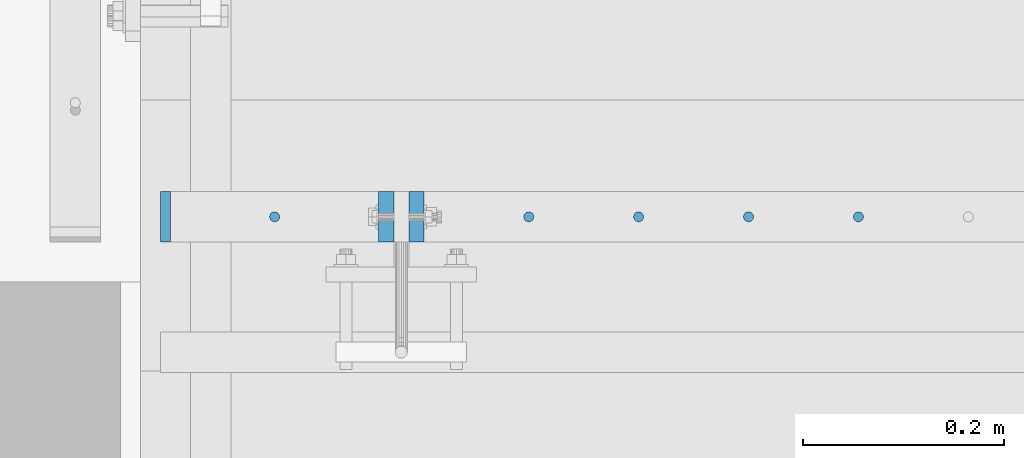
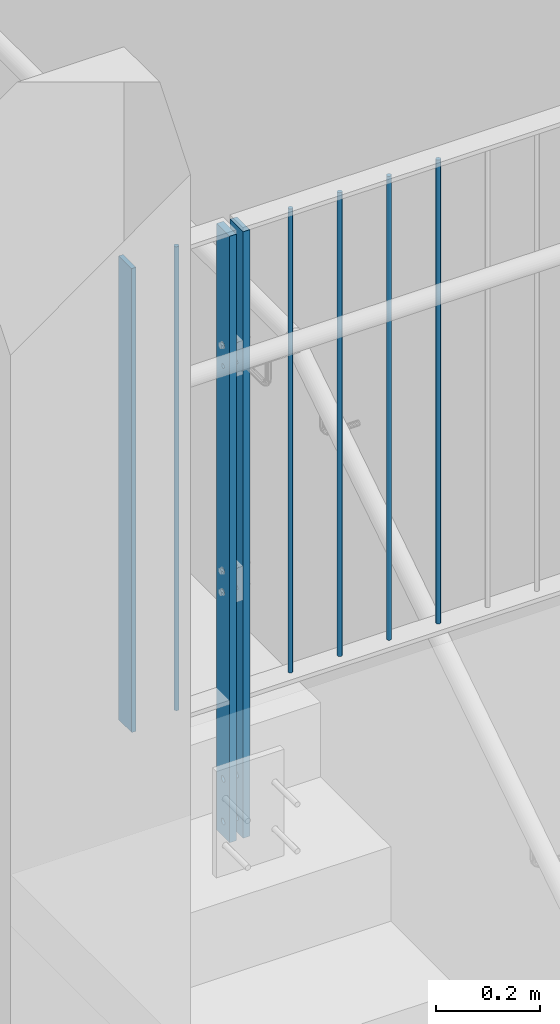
# One storey, part 5 of 296: 8 columns, 12 openings.
"""IFC2X3 building model written with IfcOpenShell, lengths in millimetres."""

from ifc_helpers import new_model, entity, si_unit, converted_unit, frame, frame_2d, origin, origin_with_axes, origin_2d, place, context, project, spatial, rectangle, circle, extrude, material, element, save


model = new_model("IFC2X3")

# Units and contexts
model_context = context("Model", 3, precision=1e-09, world=origin_with_axes())
ifc_project = project(units=[si_unit("LENGTHUNIT", "METRE", prefix="MILLI"), si_unit("AREAUNIT", "SQUARE_METRE"), si_unit("VOLUMEUNIT", "CUBIC_METRE"), converted_unit("PLANEANGLEUNIT", "DEGREE", entity("IfcPlaneAngleMeasure", 0.01745329), si_unit("PLANEANGLEUNIT", "RADIAN"), dimensions=[0, 0, 0, 0, 0, 0, 0])], contexts=[model_context])

# Site, building, storey
site_placement = place(None, origin_with_axes())
site = spatial("IfcSite", under=ifc_project, at=site_placement, Name="TZD-S?d | Treppenhausgel?nder", CompositionType="ELEMENT")
building_placement = place(site_placement, origin_with_axes())
building = spatial("IfcBuilding", under=site, at=building_placement, Name="Struktur 1", CompositionType="ELEMENT")
storey_placement = place(building_placement, origin_with_axes())
storey = spatial("IfcBuildingStorey", under=building, at=storey_placement, Name="Default Storey", CompositionType="ELEMENT", Elevation=0.0)

# Columns
ifc_material = material(Name="S235JR")
column_1_placement = place(None, frame((153.749999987, -3710.001, 13650.0), z_axis=(0.0, 0.0, 1.0), x_axis=(1.0, 0.0, 0.0)))
element("IfcColumn", 1, at=column_1_placement, inside=storey, material=ifc_material, Name="-", ObjectType="-", context=model_context, shape_type="SweptSolid", body=[
    extrude(circle(Radius=5.0, at=origin_2d()), origin(), (0.0, 0.0, 1.0), 1090.0),
])
column_2_placement = place(None, frame((44.999999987, -3710.001, 13650.0), z_axis=(0.0, 0.0, 1.0), x_axis=(1.0, 0.0, 0.0)))
element("IfcColumn", 2, at=column_2_placement, inside=storey, material=ifc_material, Name="-", ObjectType="-", context=model_context, shape_type="SweptSolid", body=[
    extrude(rectangle(XDim=10.0, YDim=50.0, at=origin_2d()), origin(), (0.0, 0.0, 1.0), 1090.0),
])

# Column, openings
column_3_placement = place(None, frame((294.999999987, -3710.001, 13315.001), z_axis=(0.0, 0.0, -1.0), x_axis=(-1.0, 0.0, 0.0)))
column_3 = element("IfcColumn", 3, at=column_3_placement, inside=storey, material=ifc_material, Name="-", ObjectType="-", context=model_context, shape_type="SweptSolid", body=[
    extrude(rectangle(XDim=15.0, YDim=50.0, at=origin_2d()), origin(), (0.0, 0.0, -1.0), 1424.999),
])
opening_1_placement = place(column_3_placement, frame((-8.0, 0.0, -599.999999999), z_axis=(1.0, 0.0, 0.0), x_axis=(0.0, -1.0, 0.0)))
element("IfcOpeningElement", 4, at=opening_1_placement, cuts=column_3, ObjectType="Opening", context=model_context, shape_type="SweptSolid", body=[
    extrude(circle(Radius=5.001, at=frame_2d((0.0, 25.0), x_axis=(1.0, 0.0))), origin(), (0.0, 0.0, 1.0), 16.0),
])
opening_2_placement = place(column_3_placement, frame((-8.0, 0.0, -599.999999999), z_axis=(1.0, 0.0, 0.0), x_axis=(0.0, -1.0, 0.0)))
element("IfcOpeningElement", 5, at=opening_2_placement, cuts=column_3, ObjectType="Opening", context=model_context, shape_type="SweptSolid", body=[
    extrude(circle(Radius=5.001, at=frame_2d((0.0, -25.0), x_axis=(1.0, 0.0))), origin(), (0.0, 0.0, 1.0), 16.0),
])
opening_3_placement = place(column_3_placement, frame((-8.0, 0.0, -85.0), z_axis=(1.0, 0.0, 0.0), x_axis=(0.0, -1.0, 0.0)))
element("IfcOpeningElement", 6, at=opening_3_placement, cuts=column_3, ObjectType="Opening", context=model_context, shape_type="SweptSolid", body=[
    extrude(circle(Radius=7.001, at=frame_2d((0.0, 50.0), x_axis=(1.0, 0.0))), origin(), (0.0, 0.0, 1.0), 16.0),
])
opening_4_placement = place(column_3_placement, frame((-8.0, 0.0, -85.0), z_axis=(1.0, 0.0, 0.0), x_axis=(0.0, -1.0, 0.0)))
element("IfcOpeningElement", 7, at=opening_4_placement, cuts=column_3, ObjectType="Opening", context=model_context, shape_type="SweptSolid", body=[
    extrude(circle(Radius=7.001, at=frame_2d((0.0, -50.0), x_axis=(1.0, 0.0))), origin(), (0.0, 0.0, 1.0), 16.0),
])
opening_5_placement = place(column_3_placement, frame((-8.0, 0.0, -1129.999999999), z_axis=(1.0, 0.0, 0.0), x_axis=(0.0, -1.0, 0.0)))
element("IfcOpeningElement", 8, at=opening_5_placement, cuts=column_3, ObjectType="Opening", context=model_context, shape_type="SweptSolid", body=[
    extrude(circle(Radius=5.001, at=frame_2d((0.0, 25.0), x_axis=(1.0, 0.0))), origin(), (0.0, 0.0, 1.0), 16.0),
])
opening_6_placement = place(column_3_placement, frame((-8.0, 0.0, -1129.999999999), z_axis=(1.0, 0.0, 0.0), x_axis=(0.0, -1.0, 0.0)))
element("IfcOpeningElement", 9, at=opening_6_placement, cuts=column_3, ObjectType="Opening", context=model_context, shape_type="SweptSolid", body=[
    extrude(circle(Radius=5.001, at=frame_2d((0.0, -25.0), x_axis=(1.0, 0.0))), origin(), (0.0, 0.0, 1.0), 16.0),
])

column_4_placement = place(None, frame((264.999999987, -3710.001, 13315.001), z_axis=(0.0, 0.0, 1.0), x_axis=(1.0, 0.0, 0.0)))
column_4 = element("IfcColumn", 10, at=column_4_placement, inside=storey, material=ifc_material, Name="-", ObjectType="-", context=model_context, shape_type="SweptSolid", body=[
    extrude(rectangle(XDim=15.0, YDim=50.0, at=origin_2d()), origin(), (0.0, 0.0, 1.0), 1424.999),
])
opening_7_placement = place(column_4_placement, frame((8.0, 0.0, 1129.999999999), z_axis=(-1.0, 0.0, 0.0), x_axis=(0.0, -1.0, 0.0)))
element("IfcOpeningElement", 11, at=opening_7_placement, cuts=column_4, ObjectType="Opening", context=model_context, shape_type="SweptSolid", body=[
    extrude(circle(Radius=5.001, at=frame_2d((0.0, 25.0), x_axis=(1.0, 0.0))), origin(), (0.0, 0.0, 1.0), 16.0),
])
opening_8_placement = place(column_4_placement, frame((8.0, 0.0, 1129.999999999), z_axis=(-1.0, 0.0, 0.0), x_axis=(0.0, -1.0, 0.0)))
element("IfcOpeningElement", 12, at=opening_8_placement, cuts=column_4, ObjectType="Opening", context=model_context, shape_type="SweptSolid", body=[
    extrude(circle(Radius=5.001, at=frame_2d((0.0, -25.0), x_axis=(1.0, 0.0))), origin(), (0.0, 0.0, 1.0), 16.0),
])
opening_9_placement = place(column_4_placement, frame((8.0, 0.0, 599.999999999), z_axis=(-1.0, 0.0, 0.0), x_axis=(0.0, -1.0, 0.0)))
element("IfcOpeningElement", 13, at=opening_9_placement, cuts=column_4, ObjectType="Opening", context=model_context, shape_type="SweptSolid", body=[
    extrude(circle(Radius=5.001, at=frame_2d((0.0, 25.0), x_axis=(1.0, 0.0))), origin(), (0.0, 0.0, 1.0), 16.0),
])
opening_10_placement = place(column_4_placement, frame((8.0, 0.0, 599.999999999), z_axis=(-1.0, 0.0, 0.0), x_axis=(0.0, -1.0, 0.0)))
element("IfcOpeningElement", 14, at=opening_10_placement, cuts=column_4, ObjectType="Opening", context=model_context, shape_type="SweptSolid", body=[
    extrude(circle(Radius=5.001, at=frame_2d((0.0, -25.0), x_axis=(1.0, 0.0))), origin(), (0.0, 0.0, 1.0), 16.0),
])
opening_11_placement = place(column_4_placement, frame((8.0, 0.0, 85.0), z_axis=(-1.0, 0.0, 0.0), x_axis=(0.0, -1.0, 0.0)))
element("IfcOpeningElement", 15, at=opening_11_placement, cuts=column_4, ObjectType="Opening", context=model_context, shape_type="SweptSolid", body=[
    extrude(circle(Radius=7.001, at=frame_2d((0.0, 50.0), x_axis=(1.0, 0.0))), origin(), (0.0, 0.0, 1.0), 16.0),
])
opening_12_placement = place(column_4_placement, frame((8.0, 0.0, 85.0), z_axis=(-1.0, 0.0, 0.0), x_axis=(0.0, -1.0, 0.0)))
element("IfcOpeningElement", 16, at=opening_12_placement, cuts=column_4, ObjectType="Opening", context=model_context, shape_type="SweptSolid", body=[
    extrude(circle(Radius=7.001, at=frame_2d((0.0, -50.0), x_axis=(1.0, 0.0))), origin(), (0.0, 0.0, 1.0), 16.0),
])

# Columns
for number, where, z_axis, x_axis in (
    (17, (735.683232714, -3710.001, 13650.0), (0.0, 0.0, -1.0), (-1.0, 0.0, 0.0)),
    (18, (626.137778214, -3710.001, 13650.0), (0.0, 0.0, -1.0), (-1.0, 0.0, 0.0)),
    (19, (516.592323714, -3710.001, 13650.0), (0.0, 0.0, -1.0), (-1.0, 0.0, 0.0)),
    (20, (407.046869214, -3710.001, 13650.0), (0.0, 0.0, -1.0), (-1.0, 0.0, 0.0)),
):
    element("IfcColumn", number, at=place(None, frame(where, z_axis=z_axis, x_axis=x_axis)), inside=storey, material=ifc_material, Name="-", ObjectType="-", context=model_context, shape_type="SweptSolid", body=[
        extrude(circle(Radius=5.0, at=origin_2d()), origin(), (0.0, 0.0, -1.0), 1090.0),
    ])

save(model, "model.ifc")
